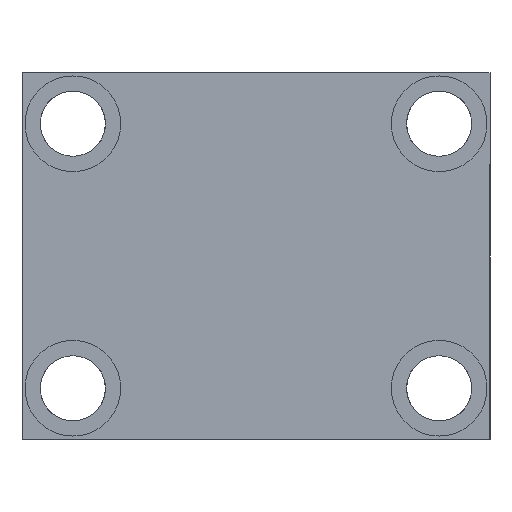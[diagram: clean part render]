
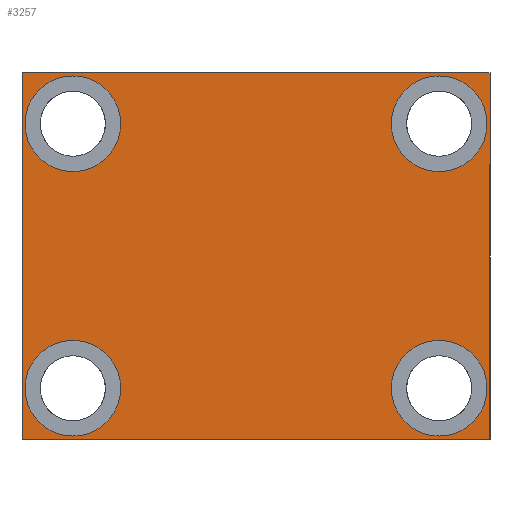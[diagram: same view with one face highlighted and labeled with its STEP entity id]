
A CAD part, front view. The second image highlights one B-rep face of the part: STEP entity #3257.
In plain terms, the highlighted planar face has unit normal (0, -1, 0).
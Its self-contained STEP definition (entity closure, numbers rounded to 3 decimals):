
#4 = VERTEX_POINT ( 'NONE', #1472 ) ;
#97 = ORIENTED_EDGE ( 'NONE', *, *, #3368, .F. ) ;
#141 = DIRECTION ( 'NONE',  ( 0., 0., -1. ) ) ;
#144 = CARTESIAN_POINT ( 'NONE',  ( -115., 0., -90. ) ) ;
#204 = EDGE_CURVE ( 'NONE', #4, #1207, #404, .T. ) ;
#228 = DIRECTION ( 'NONE',  ( 0., -1., 0. ) ) ;
#229 = AXIS2_PLACEMENT_3D ( 'NONE', #242, #228, #236 ) ;
#236 = DIRECTION ( 'NONE',  ( 0., 0., -1. ) ) ;
#242 = CARTESIAN_POINT ( 'NONE',  ( 90., 0., -65. ) ) ;
#245 = EDGE_CURVE ( 'NONE', #521, #1063, #3075, .T. ) ;
#250 = AXIS2_PLACEMENT_3D ( 'NONE', #570, #480, #613 ) ;
#264 = EDGE_CURVE ( 'NONE', #1160, #2854, #2891, .T. ) ;
#316 = ORIENTED_EDGE ( 'NONE', *, *, #245, .F. ) ;
#392 = CARTESIAN_POINT ( 'NONE',  ( -90., 0., -88.5 ) ) ;
#404 = CIRCLE ( 'NONE', #250, 23.5 ) ;
#480 = DIRECTION ( 'NONE',  ( 0., -1., 0. ) ) ;
#507 = CARTESIAN_POINT ( 'NONE',  ( 90., 0., 65. ) ) ;
#517 = DIRECTION ( 'NONE',  ( 0., -1., 0. ) ) ;
#521 = VERTEX_POINT ( 'NONE', #1844 ) ;
#524 = CIRCLE ( 'NONE', #2819, 23.5 ) ;
#528 = DIRECTION ( 'NONE',  ( 0., 0., -1. ) ) ;
#542 = CARTESIAN_POINT ( 'NONE',  ( 90., 0., -41.5 ) ) ;
#570 = CARTESIAN_POINT ( 'NONE',  ( -90., 0., 65. ) ) ;
#613 = DIRECTION ( 'NONE',  ( 0., 0., -1. ) ) ;
#683 = CARTESIAN_POINT ( 'NONE',  ( 90., 0., -88.5 ) ) ;
#697 = CARTESIAN_POINT ( 'NONE',  ( -90., 0., -65. ) ) ;
#707 = EDGE_CURVE ( 'NONE', #761, #2796, #2131, .T. ) ;
#744 = ORIENTED_EDGE ( 'NONE', *, *, #1624, .F. ) ;
#752 = DIRECTION ( 'NONE',  ( 0., -1., 0. ) ) ;
#761 = VERTEX_POINT ( 'NONE', #3057 ) ;
#779 = CARTESIAN_POINT ( 'NONE',  ( 90., 0., -65. ) ) ;
#795 = DIRECTION ( 'NONE',  ( 0., 0., -1. ) ) ;
#839 = DIRECTION ( 'NONE',  ( 0., -1., 0. ) ) ;
#864 = EDGE_CURVE ( 'NONE', #1491, #2496, #2477, .T. ) ;
#908 = VERTEX_POINT ( 'NONE', #392 ) ;
#966 = CIRCLE ( 'NONE', #3434, 23.5 ) ;
#991 = ORIENTED_EDGE ( 'NONE', *, *, #864, .F. ) ;
#995 = FACE_OUTER_BOUND ( 'NONE', #2834, .T. ) ;
#1011 = PLANE ( 'NONE',  #1963 ) ;
#1014 = CIRCLE ( 'NONE', #1813, 23.5 ) ;
#1016 = EDGE_CURVE ( 'NONE', #2796, #1160, #3278, .T. ) ;
#1063 = VERTEX_POINT ( 'NONE', #1654 ) ;
#1107 = AXIS2_PLACEMENT_3D ( 'NONE', #697, #839, #141 ) ;
#1140 = DIRECTION ( 'NONE',  ( 0., 0., 1. ) ) ;
#1160 = VERTEX_POINT ( 'NONE', #2620 ) ;
#1207 = VERTEX_POINT ( 'NONE', #3196 ) ;
#1239 = VECTOR ( 'NONE', #1979, 1000. ) ;
#1242 = LINE ( 'NONE', #2022, #1239 ) ;
#1271 = EDGE_CURVE ( 'NONE', #2496, #1491, #524, .T. ) ;
#1289 = CARTESIAN_POINT ( 'NONE',  ( 0., 0., 0. ) ) ;
#1319 = DIRECTION ( 'NONE',  ( 0., 1., 0. ) ) ;
#1331 = DIRECTION ( 'NONE',  ( 0., 0., 1. ) ) ;
#1360 = CARTESIAN_POINT ( 'NONE',  ( -115., 0., -90. ) ) ;
#1398 = CARTESIAN_POINT ( 'NONE',  ( -90., 0., 65. ) ) ;
#1455 = ORIENTED_EDGE ( 'NONE', *, *, #264, .F. ) ;
#1472 = CARTESIAN_POINT ( 'NONE',  ( -90., 0., 88.5 ) ) ;
#1491 = VERTEX_POINT ( 'NONE', #683 ) ;
#1536 = EDGE_CURVE ( 'NONE', #1839, #908, #1670, .T. ) ;
#1624 = EDGE_CURVE ( 'NONE', #908, #1839, #966, .T. ) ;
#1654 = CARTESIAN_POINT ( 'NONE',  ( 90., 0., 88.5 ) ) ;
#1670 = CIRCLE ( 'NONE', #1107, 23.5 ) ;
#1673 = DIRECTION ( 'NONE',  ( 0., -1., 0. ) ) ;
#1702 = FACE_BOUND ( 'NONE', #3073, .T. ) ;
#1747 = DIRECTION ( 'NONE',  ( 0., 0., -1. ) ) ;
#1757 = FACE_BOUND ( 'NONE', #2433, .T. ) ;
#1759 = EDGE_LOOP ( 'NONE', ( #991, #3288 ) ) ;
#1770 = FACE_BOUND ( 'NONE', #2434, .T. ) ;
#1787 = AXIS2_PLACEMENT_3D ( 'NONE', #507, #517, #528 ) ;
#1813 = AXIS2_PLACEMENT_3D ( 'NONE', #1398, #1673, #1747 ) ;
#1839 = VERTEX_POINT ( 'NONE', #2178 ) ;
#1844 = CARTESIAN_POINT ( 'NONE',  ( 90., 0., 41.5 ) ) ;
#1874 = EDGE_CURVE ( 'NONE', #2854, #761, #1242, .T. ) ;
#1876 = FACE_BOUND ( 'NONE', #1759, .T. ) ;
#1892 = DIRECTION ( 'NONE',  ( 0., 0., -1. ) ) ;
#1963 = AXIS2_PLACEMENT_3D ( 'NONE', #1289, #1319, #1331 ) ;
#1979 = DIRECTION ( 'NONE',  ( 0., 0., -1. ) ) ;
#2022 = CARTESIAN_POINT ( 'NONE',  ( 115., 0., -90. ) ) ;
#2111 = ORIENTED_EDGE ( 'NONE', *, *, #1536, .F. ) ;
#2131 = LINE ( 'NONE', #2454, #2311 ) ;
#2165 = ORIENTED_EDGE ( 'NONE', *, *, #1016, .F. ) ;
#2178 = CARTESIAN_POINT ( 'NONE',  ( -90., 0., -41.5 ) ) ;
#2202 = AXIS2_PLACEMENT_3D ( 'NONE', #3227, #3189, #2806 ) ;
#2311 = VECTOR ( 'NONE', #2327, 1000. ) ;
#2327 = DIRECTION ( 'NONE',  ( -1., 0., 0. ) ) ;
#2422 = VECTOR ( 'NONE', #1140, 1000. ) ;
#2433 = EDGE_LOOP ( 'NONE', ( #97, #3011 ) ) ;
#2434 = EDGE_LOOP ( 'NONE', ( #316, #3217 ) ) ;
#2454 = CARTESIAN_POINT ( 'NONE',  ( -115., 0., -90. ) ) ;
#2477 = CIRCLE ( 'NONE', #229, 23.5 ) ;
#2496 = VERTEX_POINT ( 'NONE', #542 ) ;
#2620 = CARTESIAN_POINT ( 'NONE',  ( -115., 0., 90. ) ) ;
#2796 = VERTEX_POINT ( 'NONE', #144 ) ;
#2806 = DIRECTION ( 'NONE',  ( 0., 0., -1. ) ) ;
#2818 = CARTESIAN_POINT ( 'NONE',  ( -90., 0., -65. ) ) ;
#2819 = AXIS2_PLACEMENT_3D ( 'NONE', #779, #752, #795 ) ;
#2834 = EDGE_LOOP ( 'NONE', ( #3072, #1455, #2165, #3148 ) ) ;
#2854 = VERTEX_POINT ( 'NONE', #2916 ) ;
#2874 = VECTOR ( 'NONE', #3049, 1000. ) ;
#2891 = LINE ( 'NONE', #3321, #2874 ) ;
#2916 = CARTESIAN_POINT ( 'NONE',  ( 115., 0., 90. ) ) ;
#3011 = ORIENTED_EDGE ( 'NONE', *, *, #204, .F. ) ;
#3049 = DIRECTION ( 'NONE',  ( 1., 0., 0. ) ) ;
#3057 = CARTESIAN_POINT ( 'NONE',  ( 115., 0., -90. ) ) ;
#3072 = ORIENTED_EDGE ( 'NONE', *, *, #1874, .F. ) ;
#3073 = EDGE_LOOP ( 'NONE', ( #744, #2111 ) ) ;
#3075 = CIRCLE ( 'NONE', #2202, 23.5 ) ;
#3104 = DIRECTION ( 'NONE',  ( 0., -1., 0. ) ) ;
#3148 = ORIENTED_EDGE ( 'NONE', *, *, #707, .F. ) ;
#3158 = EDGE_CURVE ( 'NONE', #1063, #521, #3511, .T. ) ;
#3189 = DIRECTION ( 'NONE',  ( 0., -1., 0. ) ) ;
#3196 = CARTESIAN_POINT ( 'NONE',  ( -90., 0., 41.5 ) ) ;
#3217 = ORIENTED_EDGE ( 'NONE', *, *, #3158, .F. ) ;
#3227 = CARTESIAN_POINT ( 'NONE',  ( 90., 0., 65. ) ) ;
#3257 = ADVANCED_FACE ( 'NONE', ( #1702, #1876, #1770, #1757, #995 ), #1011, .F. ) ;
#3278 = LINE ( 'NONE', #1360, #2422 ) ;
#3288 = ORIENTED_EDGE ( 'NONE', *, *, #1271, .F. ) ;
#3321 = CARTESIAN_POINT ( 'NONE',  ( -115., 0., 90. ) ) ;
#3368 = EDGE_CURVE ( 'NONE', #1207, #4, #1014, .T. ) ;
#3434 = AXIS2_PLACEMENT_3D ( 'NONE', #2818, #3104, #1892 ) ;
#3511 = CIRCLE ( 'NONE', #1787, 23.5 ) ;
